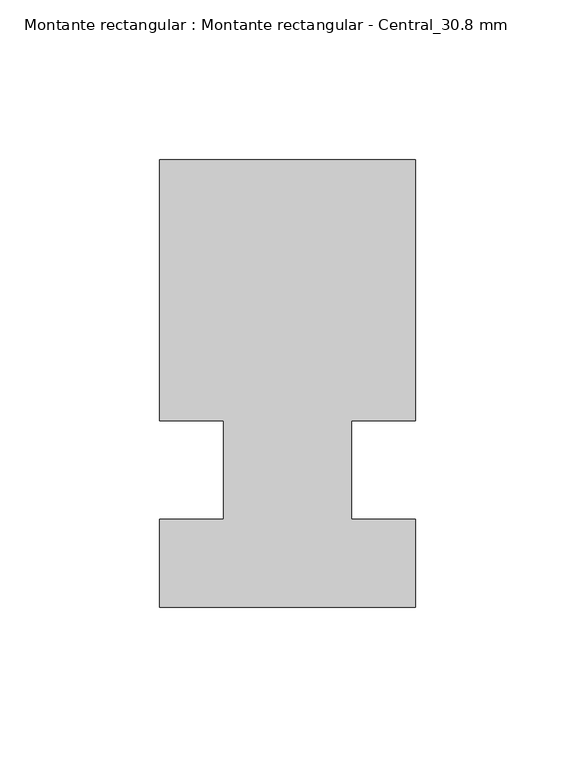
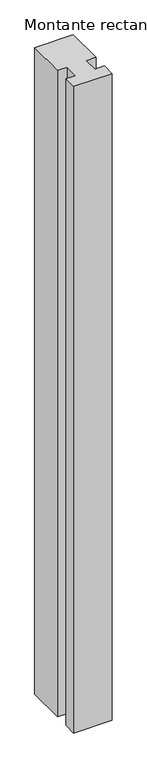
"""IFC4 building model written with IfcOpenShell, lengths in millimetres: member geometry, Montante rectangular : Montante rectangular - Central_30.8 mm."""

from ifc_helpers import new_model, si_unit, frame, origin, place, context, project, spatial, polyline, outline, extrude, source, transform, mapped, element, save


def montante_rectangular_montante_rectangular_central_30_8_mm_2c331f7a(model_context):
    return source(origin(), model_context, "Body", "SweptSolid", [
        extrude(outline(polyline([(-40.0, 80.0), (40.0, 80.0), (40.0, -1.6), (20.0, -1.6), (20.0, -32.4), (40.0, -32.4), (40.0, -60.0), (-40.0, -60.0), (-40.0, -32.4), (-20.0, -32.4), (-20.0, -1.6), (-40.0, -1.6), (-40.0, 80.0)])), frame((0.0, 0.0, -1420.0), z_axis=(0.0, 0.0, 1.0), x_axis=(1.0, 0.0, 0.0)), (0.0, 0.0, 1.0), 1420.0),
    ])


if __name__ == "__main__":
    model = new_model("IFC4")
    model_context = context("Model", 3, world=origin())
    ifc_project = project(units=[si_unit("LENGTHUNIT", "METRE", prefix="MILLI")], contexts=[model_context])
    site = spatial("IfcSite", under=ifc_project)
    building = spatial("IfcBuilding", under=site)
    placement = place(None, origin())
    montante_rectangular_montante_rectangular_central_30_8_mm_shape = montante_rectangular_montante_rectangular_central_30_8_mm_2c331f7a(model_context)
    element("IfcMember", 1, ObjectType="Montante rectangular : Montante rectangular - Central_30.8 mm", at=placement, inside=building, context=model_context, shape_type="MappedRepresentation", body=[
        mapped(montante_rectangular_montante_rectangular_central_30_8_mm_shape, transform((0.0, 0.0, 0.0), x_axis=(1.0, 0.0, 0.0), y_axis=(0.0, 1.0, 0.0), z_axis=(0.0, 0.0, 1.0))),
    ])
    save(model, "model.ifc")
